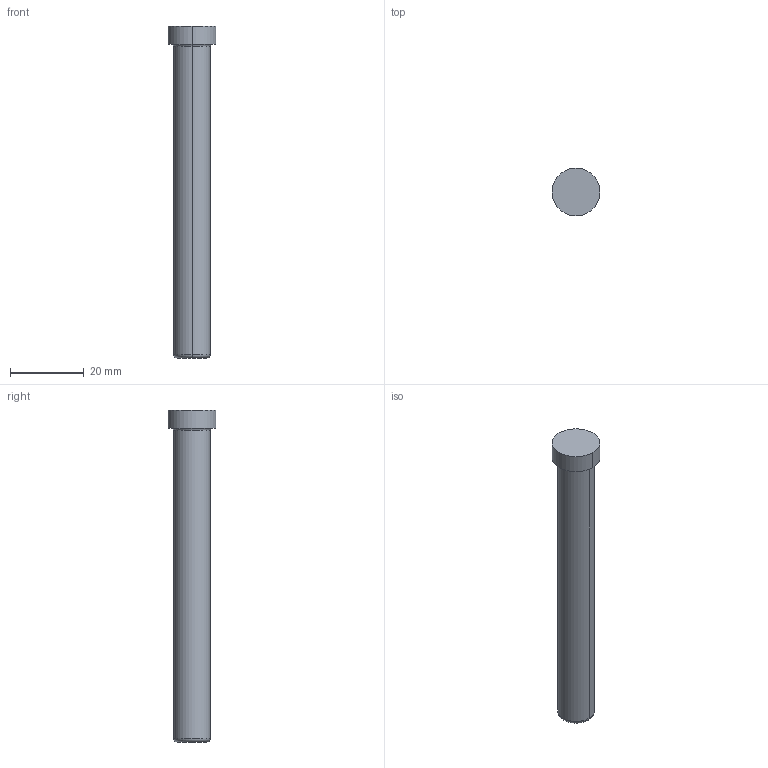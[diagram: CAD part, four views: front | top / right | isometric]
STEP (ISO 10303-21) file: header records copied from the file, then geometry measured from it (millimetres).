
FILE_DESCRIPTION(/* description */ (''),/* implementation_level */ '2;1');
FILE_NAME(/* name */ '3d_sgph10-90_00268_r00.stp',/* time_stamp */ '2011-01-10T14:11:07+09:00',/* author */ ('MISUMI'),/* organization */ (''),/* preprocessor_version */ 'ST-DEVELOPER v11',/* originating_system */ 'UGS - NX 5.0',/* authorisation */ '');
FILE_SCHEMA (('CONFIG_CONTROL_DESIGN'));
Length unit declared in the file: millimetre
Products named in the file (1): 3d_sgph10-90_00268_r00
Bounding box: 13 x 13 x 90 mm (x, y, z)
Volume: 7334.8 mm3; surface area: 3119.5 mm2
Topology: 1 solids, 1 shells, 11 faces, 20 edges, 12 vertices
Faces by surface type: cylinder 4, torus 4, plane 3
Entity records: 364 total; most frequent: DIRECTION 60, CARTESIAN_POINT 44, ORIENTED_EDGE 40, AXIS2_PLACEMENT_3D 28, EDGE_CURVE 20, CIRCLE 16, EDGE_LOOP 12, VERTEX_POINT 12
